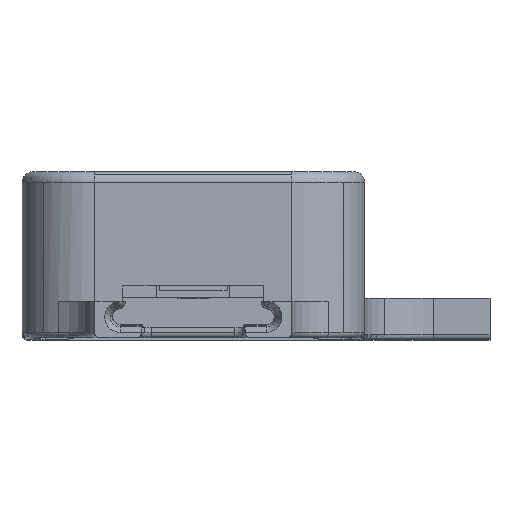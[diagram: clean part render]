
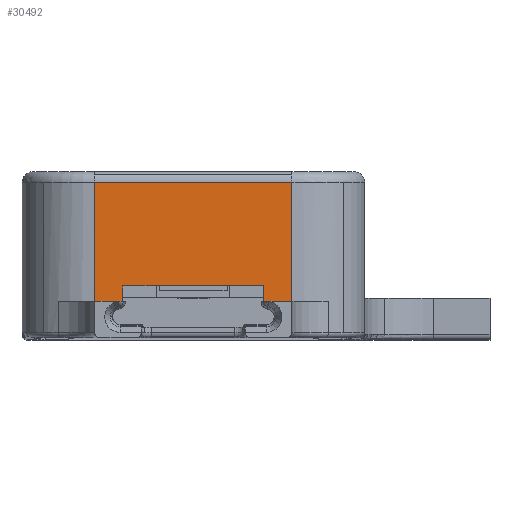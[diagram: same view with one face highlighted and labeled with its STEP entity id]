
A CAD part, top view. The second image highlights one B-rep face of the part: STEP entity #30492.
In plain terms, the highlighted planar face has unit normal (0, 0, 1).
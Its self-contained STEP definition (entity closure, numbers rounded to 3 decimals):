
#182 = VECTOR ( 'NONE', #46263, 1000. ) ;
#1215 = ORIENTED_EDGE ( 'NONE', *, *, #2646, .F. ) ;
#2646 = EDGE_CURVE ( 'NONE', #16120, #32823, #20779, .T. ) ;
#2804 = LINE ( 'NONE', #6593, #7221 ) ;
#3367 = VERTEX_POINT ( 'NONE', #30038 ) ;
#3382 = CARTESIAN_POINT ( 'NONE',  ( -418.71, -12.5, 94.484 ) ) ;
#3494 = B_SPLINE_CURVE_WITH_KNOTS ( 'NONE', 3,
 ( #35503, #28402, #24405, #39062 ),
 .UNSPECIFIED., .F., .F.,
 ( 4, 4 ),
 ( 0., 1. ),
 .UNSPECIFIED. ) ;
#4256 = DIRECTION ( 'NONE',  ( 1., 0., 0. ) ) ;
#4782 = VECTOR ( 'NONE', #25236, 1000. ) ;
#5315 = DIRECTION ( 'NONE',  ( 1., 0., 0. ) ) ;
#5392 = DIRECTION ( 'NONE',  ( 0., 1., 0. ) ) ;
#5640 = DIRECTION ( 'NONE',  ( 1., 0., 0. ) ) ;
#5890 = DIRECTION ( 'NONE',  ( 0., 1., 0. ) ) ;
#6112 = B_SPLINE_CURVE_WITH_KNOTS ( 'NONE', 3,
 ( #31088, #19961, #41979, #45775 ),
 .UNSPECIFIED., .F., .F.,
 ( 4, 4 ),
 ( 0., 1. ),
 .UNSPECIFIED. ) ;
#6593 = CARTESIAN_POINT ( 'NONE',  ( -434.994, -7., 94.484 ) ) ;
#6717 = VERTEX_POINT ( 'NONE', #43645 ) ;
#7113 = ORIENTED_EDGE ( 'NONE', *, *, #43838, .T. ) ;
#7221 = VECTOR ( 'NONE', #5890, 1000. ) ;
#7291 = ORIENTED_EDGE ( 'NONE', *, *, #33414, .T. ) ;
#9430 = CARTESIAN_POINT ( 'NONE',  ( -418.71, -18., 94.484 ) ) ;
#9923 = VERTEX_POINT ( 'NONE', #46521 ) ;
#10397 = DIRECTION ( 'NONE',  ( 0., 1., 0. ) ) ;
#10672 = CARTESIAN_POINT ( 'NONE',  ( -416.71, -19.5, 94.484 ) ) ;
#12411 = CARTESIAN_POINT ( 'NONE',  ( -434.278, -19.5, 94.484 ) ) ;
#12986 = CARTESIAN_POINT ( 'NONE',  ( -422.052, -8., 94.484 ) ) ;
#13380 = ORIENTED_EDGE ( 'NONE', *, *, #38059, .F. ) ;
#13895 = ORIENTED_EDGE ( 'NONE', *, *, #17960, .T. ) ;
#15267 = CARTESIAN_POINT ( 'NONE',  ( -434.994, -8., 94.484 ) ) ;
#15586 = CARTESIAN_POINT ( 'NONE',  ( -415.994, -7., 94.484 ) ) ;
#16120 = VERTEX_POINT ( 'NONE', #15267 ) ;
#16801 = VECTOR ( 'NONE', #35859, 1000. ) ;
#17377 = AXIS2_PLACEMENT_3D ( 'NONE', #23283, #37743, #5315 ) ;
#17960 = EDGE_CURVE ( 'NONE', #29452, #9923, #3494, .T. ) ;
#18681 = LINE ( 'NONE', #28457, #21794 ) ;
#19961 = CARTESIAN_POINT ( 'NONE',  ( -418.043, -19.5, 94.484 ) ) ;
#20328 = CARTESIAN_POINT ( 'NONE',  ( -438.244, -19.5, 94.484 ) ) ;
#20682 = EDGE_CURVE ( 'NONE', #30243, #41102, #6112, .T. ) ;
#20779 = LINE ( 'NONE', #12986, #32576 ) ;
#21794 = VECTOR ( 'NONE', #4256, 1000. ) ;
#23003 = ORIENTED_EDGE ( 'NONE', *, *, #34789, .T. ) ;
#23183 = VECTOR ( 'NONE', #5392, 1000. ) ;
#23283 = CARTESIAN_POINT ( 'NONE',  ( -408.994, -5.5, 94.484 ) ) ;
#23365 = LINE ( 'NONE', #15586, #23183 ) ;
#24060 = ORIENTED_EDGE ( 'NONE', *, *, #25993, .T. ) ;
#24405 = CARTESIAN_POINT ( 'NONE',  ( -432.944, -19.5, 94.484 ) ) ;
#25236 = DIRECTION ( 'NONE',  ( 1., 0., 0. ) ) ;
#25993 = EDGE_CURVE ( 'NONE', #3367, #32823, #23365, .T. ) ;
#26821 = ORIENTED_EDGE ( 'NONE', *, *, #20682, .T. ) ;
#28402 = CARTESIAN_POINT ( 'NONE',  ( -433.611, -19.5, 94.484 ) ) ;
#28457 = CARTESIAN_POINT ( 'NONE',  ( -417.244, -18., 94.484 ) ) ;
#28784 = LINE ( 'NONE', #35647, #4782 ) ;
#29452 = VERTEX_POINT ( 'NONE', #12411 ) ;
#29935 = FACE_OUTER_BOUND ( 'NONE', #42173, .T. ) ;
#30038 = CARTESIAN_POINT ( 'NONE',  ( -415.994, -19.5, 94.484 ) ) ;
#30243 = VERTEX_POINT ( 'NONE', #40380 ) ;
#30492 = ADVANCED_FACE ( 'NONE', ( #29935 ), #44386, .T. ) ;
#31088 = CARTESIAN_POINT ( 'NONE',  ( -418.71, -19.5, 94.484 ) ) ;
#32576 = VECTOR ( 'NONE', #5640, 1000. ) ;
#32653 = EDGE_CURVE ( 'NONE', #9923, #6717, #39273, .T. ) ;
#32823 = VERTEX_POINT ( 'NONE', #41098 ) ;
#33408 = VECTOR ( 'NONE', #10397, 1000. ) ;
#33414 = EDGE_CURVE ( 'NONE', #37053, #29452, #41878, .T. ) ;
#33767 = EDGE_CURVE ( 'NONE', #43206, #30243, #35121, .T. ) ;
#34789 = EDGE_CURVE ( 'NONE', #41102, #3367, #28784, .T. ) ;
#35121 = LINE ( 'NONE', #3382, #182 ) ;
#35503 = CARTESIAN_POINT ( 'NONE',  ( -434.278, -19.5, 94.484 ) ) ;
#35647 = CARTESIAN_POINT ( 'NONE',  ( -428.75, -19.5, 94.484 ) ) ;
#35859 = DIRECTION ( 'NONE',  ( 1., 0., 0. ) ) ;
#37053 = VERTEX_POINT ( 'NONE', #39011 ) ;
#37743 = DIRECTION ( 'NONE',  ( 0., 0., 1. ) ) ;
#38059 = EDGE_CURVE ( 'NONE', #37053, #16120, #2804, .T. ) ;
#39011 = CARTESIAN_POINT ( 'NONE',  ( -434.994, -19.5, 94.484 ) ) ;
#39062 = CARTESIAN_POINT ( 'NONE',  ( -432.278, -19.5, 94.484 ) ) ;
#39220 = ORIENTED_EDGE ( 'NONE', *, *, #33767, .T. ) ;
#39273 = LINE ( 'NONE', #43529, #33408 ) ;
#40380 = CARTESIAN_POINT ( 'NONE',  ( -418.71, -19.5, 94.484 ) ) ;
#41098 = CARTESIAN_POINT ( 'NONE',  ( -415.994, -8., 94.484 ) ) ;
#41102 = VERTEX_POINT ( 'NONE', #10672 ) ;
#41878 = LINE ( 'NONE', #20328, #16801 ) ;
#41979 = CARTESIAN_POINT ( 'NONE',  ( -417.377, -19.5, 94.484 ) ) ;
#42173 = EDGE_LOOP ( 'NONE', ( #39220, #26821, #23003, #24060, #1215, #13380, #7291, #13895, #45024, #7113 ) ) ;
#43206 = VERTEX_POINT ( 'NONE', #9430 ) ;
#43529 = CARTESIAN_POINT ( 'NONE',  ( -432.278, -12.5, 94.484 ) ) ;
#43645 = CARTESIAN_POINT ( 'NONE',  ( -432.278, -18., 94.484 ) ) ;
#43838 = EDGE_CURVE ( 'NONE', #6717, #43206, #18681, .T. ) ;
#44386 = PLANE ( 'NONE',  #17377 ) ;
#45024 = ORIENTED_EDGE ( 'NONE', *, *, #32653, .T. ) ;
#45775 = CARTESIAN_POINT ( 'NONE',  ( -416.71, -19.5, 94.484 ) ) ;
#46263 = DIRECTION ( 'NONE',  ( 0., -1., 0. ) ) ;
#46521 = CARTESIAN_POINT ( 'NONE',  ( -432.278, -19.5, 94.484 ) ) ;
